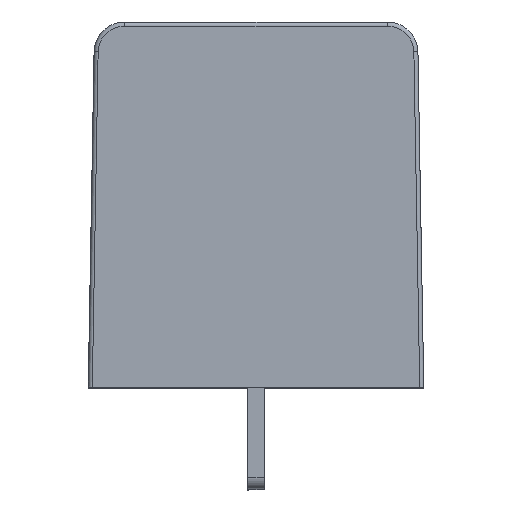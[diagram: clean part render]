
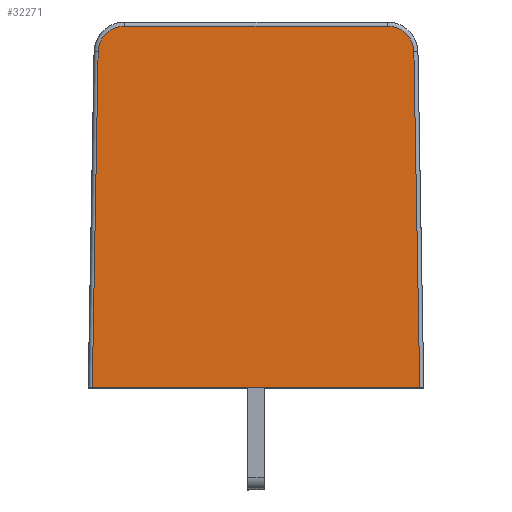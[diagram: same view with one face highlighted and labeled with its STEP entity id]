
A CAD part, top view. The second image highlights one B-rep face of the part: STEP entity #32271.
In plain terms, the highlighted planar face has unit normal (0, 0, 1).
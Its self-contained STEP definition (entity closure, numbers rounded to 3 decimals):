
#9630=DIRECTION('',(-1.,0.,0.));
#9631=VECTOR('',#9630,16.128);
#9632=CARTESIAN_POINT('',(16.664,0.003,0.));
#9633=LINE('',#9632,#9631);
#9719=DIRECTION('',(-0.017,-1.,0.));
#9720=VECTOR('',#9719,16.525);
#9721=CARTESIAN_POINT('',(0.824,16.526,
0.));
#9722=LINE('',#9721,#9720);
#9723=CARTESIAN_POINT('',(2.124,16.503,
0.));
#9724=DIRECTION('',(0.,0.,1.));
#9725=DIRECTION('',(0.,1.,0.));
#9726=AXIS2_PLACEMENT_3D('',#9723,#9724,#9725);
#9728=CARTESIAN_POINT('',(15.076,16.503,
0.));
#9729=DIRECTION('',(0.,0.,1.));
#9730=DIRECTION('',(1.,0.017,0.));
#9731=AXIS2_PLACEMENT_3D('',#9728,#9729,#9730);
#9733=DIRECTION('',(-0.017,1.,0.));
#9734=VECTOR('',#9733,16.525);
#9735=CARTESIAN_POINT('',(16.664,0.003,0.));
#9736=LINE('',#9735,#9734);
#9756=DIRECTION('',(1.,0.,0.));
#9757=VECTOR('',#9756,12.951);
#9758=CARTESIAN_POINT('',(2.124,17.803,
0.));
#9759=LINE('',#9758,#9757);
#15208=CARTESIAN_POINT('',(0.824,16.526,
0.));
#15209=CARTESIAN_POINT('',(0.536,0.003,0.));
#15210=VERTEX_POINT('',#15208);
#15211=VERTEX_POINT('',#15209);
#15212=CARTESIAN_POINT('',(2.124,17.803,
0.));
#15213=VERTEX_POINT('',#15212);
#15214=CARTESIAN_POINT('',(15.076,17.803,
0.));
#15215=VERTEX_POINT('',#15214);
#15216=CARTESIAN_POINT('',(16.376,16.526,
0.));
#15217=VERTEX_POINT('',#15216);
#15218=CARTESIAN_POINT('',(16.664,0.003,0.));
#15219=VERTEX_POINT('',#15218);
#32254=CARTESIAN_POINT('',(-619.377,-385.902,0.));
#32255=DIRECTION('',(0.,0.,-1.));
#32256=DIRECTION('',(-1.,0.,0.));
#32257=AXIS2_PLACEMENT_3D('',#32254,#32255,#32256);
#32258=PLANE('',#32257);
#32259=ORIENTED_EDGE('',*,*,#32113,.T.);
#32261=ORIENTED_EDGE('',*,*,#32260,.F.);
#32263=ORIENTED_EDGE('',*,*,#32262,.F.);
#32265=ORIENTED_EDGE('',*,*,#32264,.T.);
#32267=ORIENTED_EDGE('',*,*,#32266,.F.);
#32268=ORIENTED_EDGE('',*,*,#32247,.F.);
#32269=EDGE_LOOP('',(#32259,#32261,#32263,#32265,#32267,#32268));
#32270=FACE_OUTER_BOUND('',#32269,.F.);
#32271=ADVANCED_FACE('',(#32270),#32258,.F.);
#9727=CIRCLE('',#9726,1.3);
#9732=CIRCLE('',#9731,1.3);
#32113=EDGE_CURVE('',#15219,#15211,#9633,.T.);
#32247=EDGE_CURVE('',#15219,#15217,#9736,.T.);
#32260=EDGE_CURVE('',#15210,#15211,#9722,.T.);
#32262=EDGE_CURVE('',#15213,#15210,#9727,.T.);
#32264=EDGE_CURVE('',#15213,#15215,#9759,.T.);
#32266=EDGE_CURVE('',#15217,#15215,#9732,.T.);
